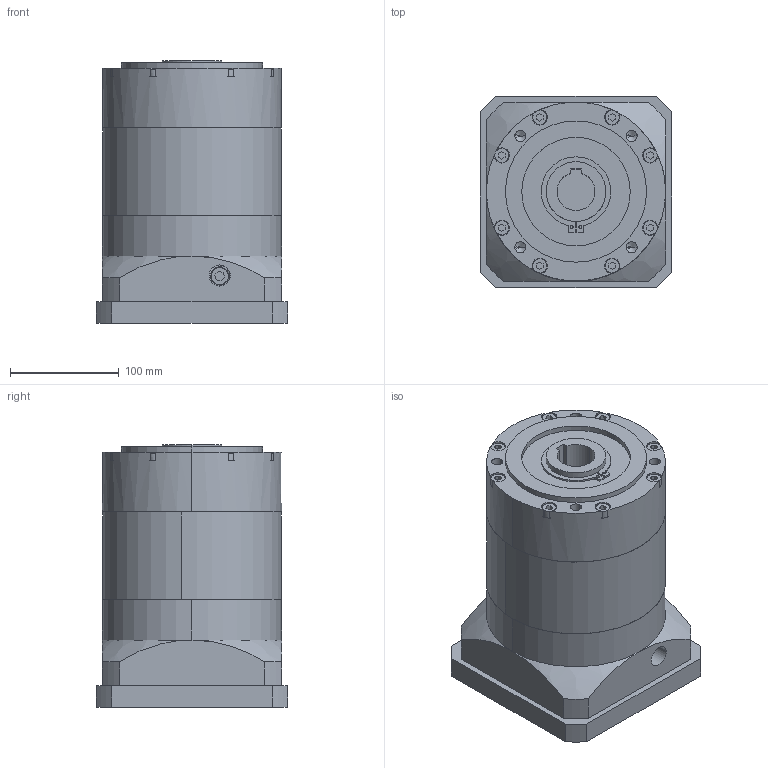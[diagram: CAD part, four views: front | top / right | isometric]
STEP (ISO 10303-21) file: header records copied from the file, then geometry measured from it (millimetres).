
FILE_DESCRIPTION (( 'STEP AP203' ), '1' );
FILE_NAME ('PBE160-L2-35-114.3-M12-200-LR86.STEP', '2022-07-25T03:57:18', ( 'Windows User' ), ( 'P R C' ), 'SwSTEP 2.0', 'SolidWorks 2016', '' );
FILE_SCHEMA (( 'CONFIG_CONTROL_DESIGN' ));
Length unit declared in the file: millimetre
Products named in the file (7): PBE160 內齿圈_二级内齿圈; PBE160 奻屳唳; GB／T276-94深沟球轴承6011-2RZ; PBE160-帣釱-LR66; PBE160-蟀諉啣-114.3-M12-200_2; PBE160-L2-35-114.3-M12-200-LR86; GB／T70．1-2000内六角圆柱头螺钉M10×35
Assembly tree (7 placements, depth 2):
  PBE160-L2-35-114.3-M12-200-LR86
    GB／T70．1-2000内六角圆柱头螺钉M10×35  x2
    PBE160 內齿圈_二级内齿圈
    PBE160 奻屳唳
    GB／T276-94深沟球轴承6011-2RZ
    PBE160-帣釱-LR66
    PBE160-蟀諉啣-114.3-M12-200_2
Bounding box: 176 x 176 x 242 mm (x, y, z)
Volume: 4690648.2 mm3; surface area: 456185.6 mm2
Topology: 7 solids, 15 shells, 1176 faces, 3150 edges, 2074 vertices
Faces by surface type: plane 614, bspline 306, cylinder 232, cone 24
Entity records: 49525 total; most frequent: CARTESIAN_POINT 21634, ORIENTED_EDGE 6140, DIRECTION 4835, EDGE_CURVE 3070, VERTEX_POINT 2034, AXIS2_PLACEMENT_3D 1648, LINE 1539, VECTOR 1539
